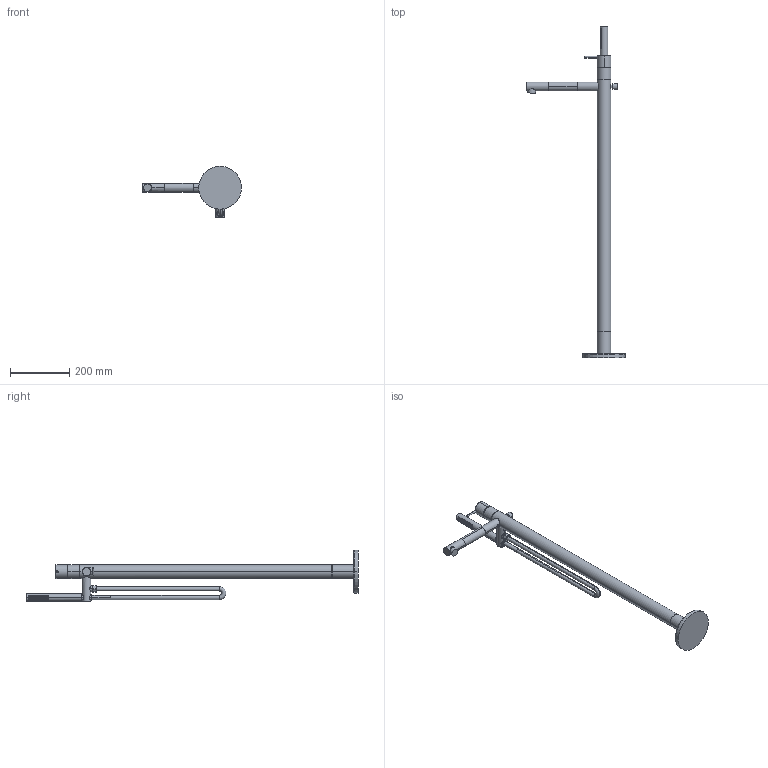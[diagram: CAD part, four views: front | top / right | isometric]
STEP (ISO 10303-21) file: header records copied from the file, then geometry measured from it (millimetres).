
FILE_DESCRIPTION((''),'2;1');
FILE_NAME('FREE_STANDING_ONO_SW0004','2023-10-12T14:47:59',('YY993'),(''),'CREO PARAMETRIC BY PTC INC, 2022244','CREO PARAMETRIC BY PTC INC, 2022244','');
FILE_SCHEMA(('CONFIG_CONTROL_DESIGN'));
Length unit declared in the file: millimetre
Products named in the file (1): FREE_STANDING_ONO_SW0004
Bounding box: 335.5 x 1124.34 x 174 mm (x, y, z)
Volume: 2388767.7 mm3; surface area: 279467.5 mm2
Topology: 1 solids, 1 shells, 687 faces, 1484 edges, 949 vertices
Faces by surface type: cylinder 274, cone 146, torus 135, plane 101, bspline 26, sphere 5
Entity records: 28898 total; most frequent: CARTESIAN_POINT 14267, DIRECTION 2995, ORIENTED_EDGE 2958, EDGE_CURVE 1479, AXIS2_PLACEMENT_3D 1312, VERTEX_POINT 949, EDGE_LOOP 842, FACE_OUTER_BOUND 687
